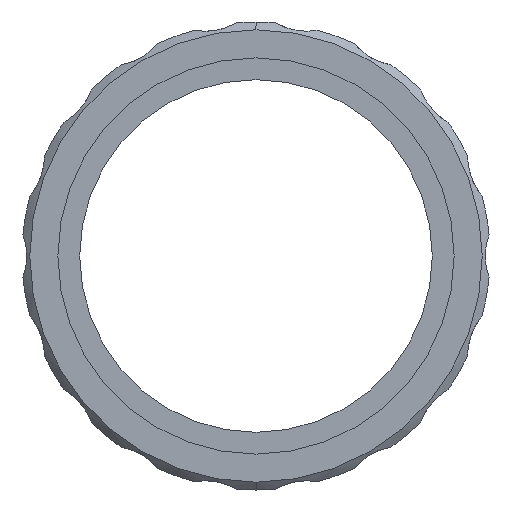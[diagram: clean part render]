
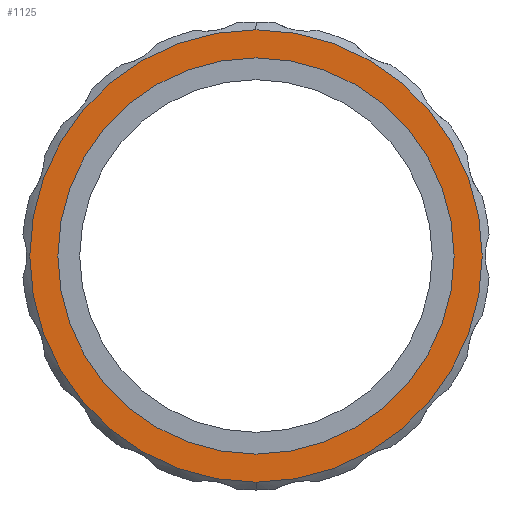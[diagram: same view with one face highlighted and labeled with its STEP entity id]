
A CAD part, left-side view. The second image highlights one B-rep face of the part: STEP entity #1125.
In plain terms, the highlighted planar face has unit normal (-1, 0, 0).
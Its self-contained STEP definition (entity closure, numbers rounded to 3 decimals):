
#58 = AXIS2_PLACEMENT_3D ( 'NONE', #2242, #1205, #156 ) ;
#156 = DIRECTION ( 'NONE',  ( 0., 0., -1. ) ) ;
#234 = FACE_BOUND ( 'NONE', #1052, .T. ) ;
#256 = DIRECTION ( 'NONE',  ( 0., 0., 1. ) ) ;
#275 = DIRECTION ( 'NONE',  ( 0., 0., -1. ) ) ;
#453 = PLANE ( 'NONE',  #898 ) ;
#459 = EDGE_LOOP ( 'NONE', ( #1171, #575 ) ) ;
#491 = CARTESIAN_POINT ( 'NONE',  ( 0., 0., 12.7 ) ) ;
#575 = ORIENTED_EDGE ( 'NONE', *, *, #1750, .T. ) ;
#696 = VERTEX_POINT ( 'NONE', #1926 ) ;
#712 = AXIS2_PLACEMENT_3D ( 'NONE', #1673, #1628, #275 ) ;
#830 = CARTESIAN_POINT ( 'NONE',  ( 0., 0., -12.7 ) ) ;
#898 = AXIS2_PLACEMENT_3D ( 'NONE', #2094, #1362, #1585 ) ;
#917 = EDGE_CURVE ( 'NONE', #1976, #987, #1427, .T. ) ;
#953 = DIRECTION ( 'NONE',  ( -1., 0., 0. ) ) ;
#987 = VERTEX_POINT ( 'NONE', #830 ) ;
#993 = EDGE_CURVE ( 'NONE', #987, #1976, #1885, .T. ) ;
#1052 = EDGE_LOOP ( 'NONE', ( #1743, #1947 ) ) ;
#1088 = CIRCLE ( 'NONE', #58, 14.5 ) ;
#1125 = ADVANCED_FACE ( 'NONE', ( #1815, #234 ), #453, .F. ) ;
#1171 = ORIENTED_EDGE ( 'NONE', *, *, #1969, .T. ) ;
#1183 = DIRECTION ( 'NONE',  ( -1., 0., 0. ) ) ;
#1205 = DIRECTION ( 'NONE',  ( -1., 0., 0. ) ) ;
#1362 = DIRECTION ( 'NONE',  ( 1., 0., 0. ) ) ;
#1427 = CIRCLE ( 'NONE', #1784, 12.7 ) ;
#1585 = DIRECTION ( 'NONE',  ( 0., 0., -1. ) ) ;
#1628 = DIRECTION ( 'NONE',  ( -1., 0., 0. ) ) ;
#1673 = CARTESIAN_POINT ( 'NONE',  ( 0., 0., 0. ) ) ;
#1686 = VERTEX_POINT ( 'NONE', #2227 ) ;
#1695 = CARTESIAN_POINT ( 'NONE',  ( 0., 0., 0. ) ) ;
#1743 = ORIENTED_EDGE ( 'NONE', *, *, #917, .F. ) ;
#1750 = EDGE_CURVE ( 'NONE', #1686, #696, #2247, .T. ) ;
#1784 = AXIS2_PLACEMENT_3D ( 'NONE', #1695, #1183, #256 ) ;
#1815 = FACE_OUTER_BOUND ( 'NONE', #459, .T. ) ;
#1885 = CIRCLE ( 'NONE', #2228, 12.7 ) ;
#1926 = CARTESIAN_POINT ( 'NONE',  ( 0., 0., -14.5 ) ) ;
#1947 = ORIENTED_EDGE ( 'NONE', *, *, #993, .F. ) ;
#1969 = EDGE_CURVE ( 'NONE', #696, #1686, #1088, .T. ) ;
#1976 = VERTEX_POINT ( 'NONE', #491 ) ;
#2008 = CARTESIAN_POINT ( 'NONE',  ( 0., 0., 0. ) ) ;
#2094 = CARTESIAN_POINT ( 'NONE',  ( 0., 12.7, 0. ) ) ;
#2193 = DIRECTION ( 'NONE',  ( 0., 0., 1. ) ) ;
#2227 = CARTESIAN_POINT ( 'NONE',  ( 0., 0., 14.5 ) ) ;
#2228 = AXIS2_PLACEMENT_3D ( 'NONE', #2008, #953, #2193 ) ;
#2242 = CARTESIAN_POINT ( 'NONE',  ( 0., 0., 0. ) ) ;
#2247 = CIRCLE ( 'NONE', #712, 14.5 ) ;
